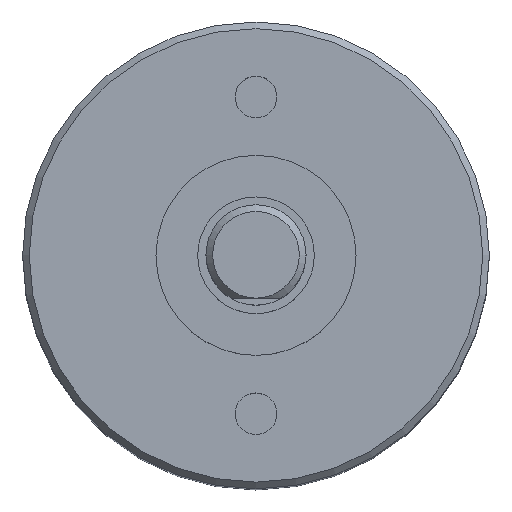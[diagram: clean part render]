
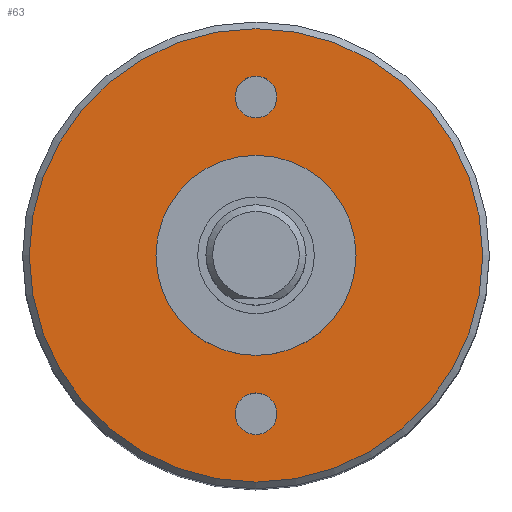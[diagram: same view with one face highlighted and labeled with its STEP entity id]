
A CAD part, top view. The second image highlights one B-rep face of the part: STEP entity #63.
In plain terms, the highlighted planar face has unit normal (0, 0, 1).
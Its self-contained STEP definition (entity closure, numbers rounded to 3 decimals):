
#37=PLANE('',#301);
#63=ADVANCED_FACE('',(#103,#104,#105,#106),#37,.T.);
#103=FACE_BOUND('',#136,.T.);
#104=FACE_BOUND('',#137,.T.);
#105=FACE_BOUND('',#138,.T.);
#106=FACE_BOUND('',#139,.T.);
#136=EDGE_LOOP('',(#181));
#137=EDGE_LOOP('',(#182));
#138=EDGE_LOOP('',(#183));
#139=EDGE_LOOP('',(#184));
#181=ORIENTED_EDGE('',*,*,#250,.T.);
#182=ORIENTED_EDGE('',*,*,#251,.T.);
#183=ORIENTED_EDGE('',*,*,#252,.T.);
#184=ORIENTED_EDGE('',*,*,#247,.T.);
#223=VERTEX_POINT('',#445);
#226=VERTEX_POINT('',#453);
#227=VERTEX_POINT('',#455);
#228=VERTEX_POINT('',#457);
#247=EDGE_CURVE('',#223,#223,#268,.T.);
#250=EDGE_CURVE('',#226,#226,#271,.T.);
#251=EDGE_CURVE('',#227,#227,#272,.T.);
#252=EDGE_CURVE('',#228,#228,#273,.T.);
#268=CIRCLE('',#293,3.);
#271=CIRCLE('',#298,0.625);
#272=CIRCLE('',#299,0.625);
#273=CIRCLE('',#300,6.8);
#293=AXIS2_PLACEMENT_3D('',#444,#350,#351);
#298=AXIS2_PLACEMENT_3D('',#452,#360,#361);
#299=AXIS2_PLACEMENT_3D('',#454,#362,#363);
#300=AXIS2_PLACEMENT_3D('',#456,#364,#365);
#301=AXIS2_PLACEMENT_3D('',#458,#366,#367);
#350=DIRECTION('',(0.,0.,-1.));
#351=DIRECTION('',(1.,0.,0.));
#360=DIRECTION('',(0.,0.,-1.));
#361=DIRECTION('',(1.,0.,0.));
#362=DIRECTION('',(0.,0.,-1.));
#363=DIRECTION('',(-1.,0.,0.));
#364=DIRECTION('',(0.,0.,1.));
#365=DIRECTION('',(1.,0.,0.));
#366=DIRECTION('',(0.,0.,1.));
#367=DIRECTION('',(1.,0.,0.));
#444=CARTESIAN_POINT('',(0.,0.,0.));
#445=CARTESIAN_POINT('',(3.,0.,0.));
#452=CARTESIAN_POINT('',(0.,-4.75,0.));
#453=CARTESIAN_POINT('',(0.625,-4.75,0.));
#454=CARTESIAN_POINT('',(0.,4.75,0.));
#455=CARTESIAN_POINT('',(-0.625,4.75,0.));
#456=CARTESIAN_POINT('',(0.,0.,0.));
#457=CARTESIAN_POINT('',(6.8,0.,0.));
#458=CARTESIAN_POINT('',(0.,0.,0.));
